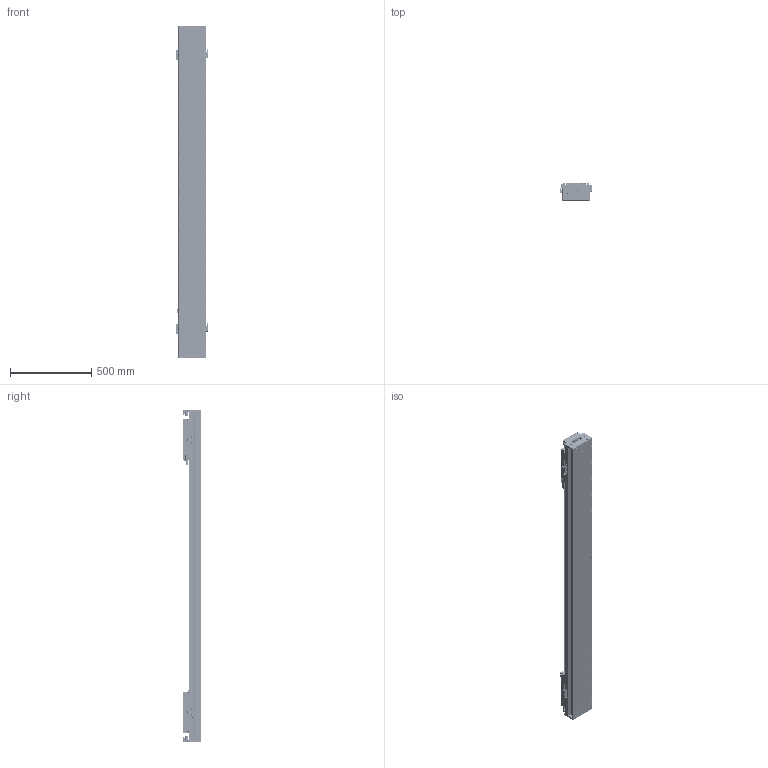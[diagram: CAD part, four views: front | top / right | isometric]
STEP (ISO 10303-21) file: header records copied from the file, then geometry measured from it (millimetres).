
FILE_DESCRIPTION (( 'STEP AP203' ), '1' );
FILE_NAME ('DKW168-2×C3-W090（T1400-L005-0.2）.STEP', '2022-03-08T05:44:52', ( '微软用户' ), ( '微软中国' ), 'SwSTEP 2.0', 'SolidWorks 2018', '' );
FILE_SCHEMA (( 'CONFIG_CONTROL_DESIGN' ));
Length unit declared in the file: millimetre
Products named in the file (28): DKW-SG-GYP-H-00 嫖萇覜茼え; DKW168 单轴模组-拉钢带组件; 10392-0001-001-00 菁釱; 嫖萇羲壽蚾饜极A; CKM01-W090-TRL280; MSA20絳寢; DKW168-HXJ-ZJ-00 笢潔滅袉砎蝶; DKW168-RU-DTJ-00 RU2黍杅芛盓殤; 10279-0001-003-00 傷啣; DKW-GYP-ZJ-00 笢潔嫖萇覜茼え; RUS嫖掑喜; DKW168-HXJ-00 遣喳砎蝶; DKW168-C3-W090-HTB-04 C3-W090賑怢啣; DKW-KGZ-ZJ-00 中间光电开关支架; Ru2; 10392-0001-002-00 詩湍裔啣; MSB20S1FC; EE_SX674A; pm-y65; 10392-0001-003-00 詩湍嶺輸; CKM03-W090-C1C2-TP-0.2 珨极萇儂; DKW168-2×C3-W090（T1400-L005-0.2）; 10980-0001-003-00 嫖萇羲壽嘐隅釱; 10392-0001-004-00 詩湍揤輸; DKW168-HYB-00 賑輸揤啣; 嫖萇羲壽蚾饜极; 10279-0001-006-00 嶺輸菜輸; C3-W090
Assembly tree (48 placements, depth 3):
  DKW168-2×C3-W090（T1400-L005-0.2）
    C3-W090  x2
      DKW168-C3-W090-HTB-04 C3-W090賑怢啣
      MSB20S1FC
      CKM03-W090-C1C2-TP-0.2 珨极萇儂
      DKW168-HYB-00 賑輸揤啣
    10392-0001-001-00 菁釱
    MSA20絳寢  x2
    DKW168 单轴模组-拉钢带组件
      10279-0001-003-00 傷啣  x2
      DKW168-HXJ-00 遣喳砎蝶  x4
      10392-0001-002-00 詩湍裔啣
      10392-0001-003-00 詩湍嶺輸  x2
      10392-0001-004-00 詩湍揤輸  x2
      10279-0001-006-00 嶺輸菜輸  x2
    CKM01-W090-TRL280
    DKW168-RU-DTJ-00 RU2黍杅芛盓殤  x2
    RUS嫖掑喜
    Ru2  x2
    嫖萇羲壽蚾饜极
      pm-y65  x2
      10980-0001-003-00 嫖萇羲壽嘐隅釱
    DKW-SG-GYP-H-00 嫖萇覜茼え  x2
    嫖萇羲壽蚾饜极A
      pm-y65  x2
      10980-0001-003-00 嫖萇羲壽嘐隅釱
    DKW168-HXJ-ZJ-00 笢潔滅袉砎蝶
    DKW-GYP-ZJ-00 笢潔嫖萇覜茼え
    DKW-KGZ-ZJ-00 中间光电开关支架
    EE_SX674A  x2
Bounding box: 202.1 x 109 x 2040 mm (x, y, z)
Volume: 15280458 mm3; surface area: 3924379.3 mm2
Topology: 75 solids, 173 shells, 7837 faces, 20352 edges, 12951 vertices
Faces by surface type: plane 4127, cylinder 2236, cone 852, bspline 558, torus 32, sphere 32
Entity records: 124023 total; most frequent: CARTESIAN_POINT 41317, ORIENTED_EDGE 16521, DIRECTION 15798, EDGE_CURVE 8301, VERTEX_POINT 5410, AXIS2_PLACEMENT_3D 5344, VECTOR 5110, LINE 5110
